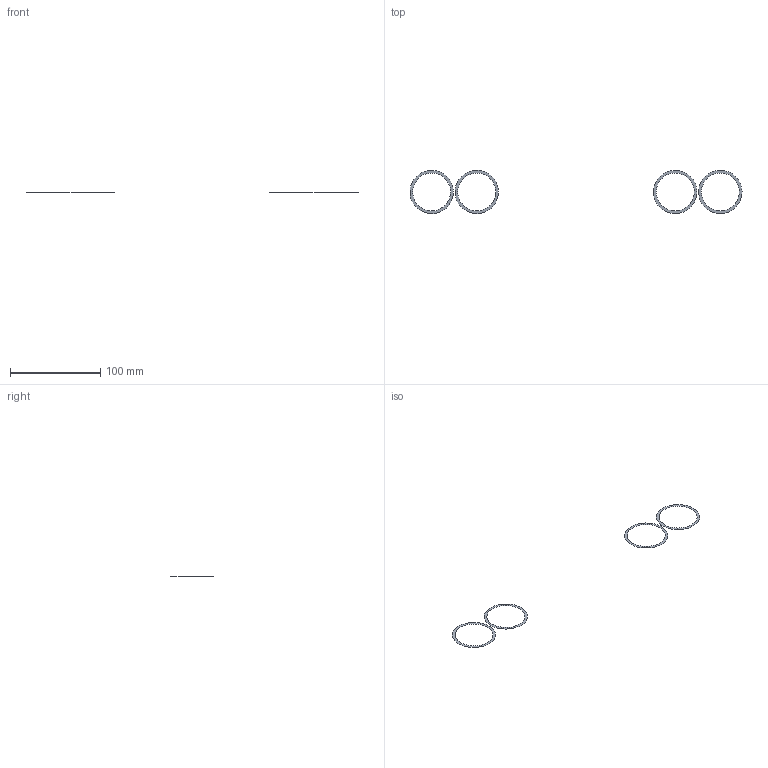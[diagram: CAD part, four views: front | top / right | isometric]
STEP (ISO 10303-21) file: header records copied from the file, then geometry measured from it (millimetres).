
FILE_DESCRIPTION(('Open CASCADE Model'),'2;1');
FILE_NAME('Open CASCADE Shape Model','2026-09-28T11:54:17',('Author'),( 'Open CASCADE'),'Open CASCADE STEP processor 8.0','build123d', 'Unknown');
FILE_SCHEMA(('AUTOMOTIVE_DESIGN { 1 0 10303 214 1 1 1 1 }'));
Length unit declared in the file: millimetre
Products named in the file (1): COMPOUND
Bounding box: 367.99 x 47.97 x 0 mm (x, y, z)
Surface area: 3390 mm2 (no closed solid volume)
Topology: 4 solids, 4 shells, 8 faces, 8 edges, 8 vertices
Faces by surface type: plane 8
Entity records: 2860 total; most frequent: CARTESIAN_POINT 2669, B_SPLINE_CURVE_WITH_KNOTS 24, DIRECTION 18, FACE_BOUND 16, EDGE_LOOP 16, ORIENTED_EDGE 16, PCURVE 16, DEFINITIONAL_REPRESENTATION 16
